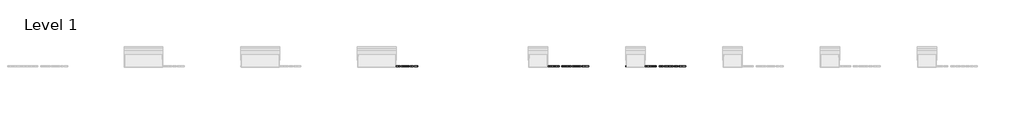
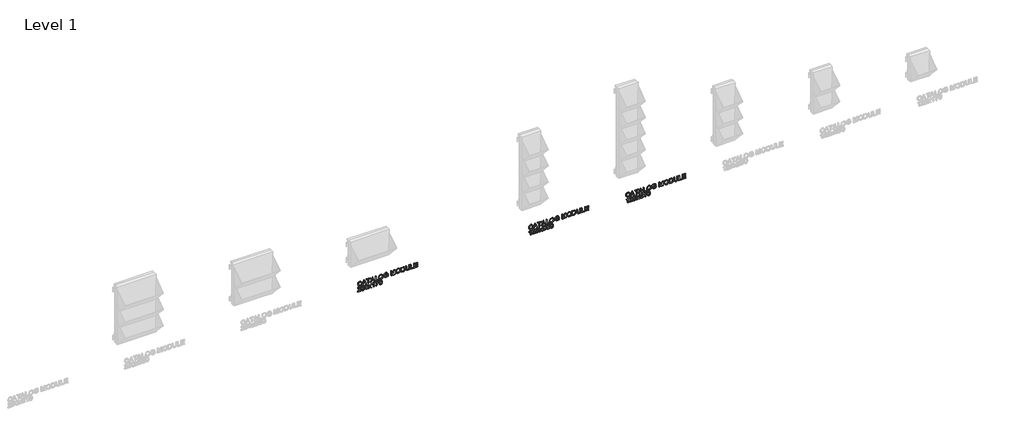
# One storey, part 4 of 5: 3 proxies.
"""IFC4 building model written with IfcOpenShell, lengths in millimetres."""

from ifc_helpers import new_model, si_unit, frame, origin, place, context, project, spatial, polyline, outline, extrude, element, save

model = new_model("IFC4")

# Units and contexts
model_context = context("Model", 3, world=origin())
ifc_project = project(units=[si_unit("LENGTHUNIT", "METRE", prefix="MILLI")], contexts=[model_context])

# Site, building, storey
site = spatial("IfcSite", under=ifc_project)
building = spatial("IfcBuilding", under=site)
storey = spatial("IfcBuildingStorey", under=building, Name="Level 1", Elevation=0.0)

# Proxies
placement = place(None, origin())
element("IfcBuildingElementProxy", 1, Name="30mm Arial", ObjectType="30mm Arial", at=placement, inside=storey, context=model_context, shape_type="SweptSolid", body=[
    extrude(outline(polyline([(-74.1059821, 2262.4481328), (-79.6536426, 2259.2512383), (-81.5224832, 2253.4865274), (-80.1502833, 2248.2883548), (-76.0042532, 2244.7493301), (-69.5148148, 2243.6125747), (-63.9156509, 2244.5727467), (-59.5893586, 2247.9020787), (-57.9780355, 2253.7955483), (-59.4311694, 2258.8870351), (-64.0628037, 2261.9772439), (-63.1651716, 2265.7443555), (-56.558011, 2261.4879608), (-54.2109238, 2253.9427011), (-56.0245821, 2246.7027834), (-61.3331193, 2241.6296907), (-69.5221725, 2239.8454631), (-77.5787882, 2241.4236768), (-83.3103897, 2246.0222018), (-85.2895948, 2253.8617671), (-82.6739538, 2261.749157), (-75.0771906, 2266.2152445), (-74.1059821, 2262.4481328)])), frame((0.0, -152.7156773, 0.0), z_axis=(0.0, 1.0, 0.0), x_axis=(0.0, 0.0, 1.0)), (0.0, 0.0, 1.0), 5.0),
    extrude(outline(polyline([(-84.8187058, 2267.8854287), (-84.8187058, 2271.8659119), (-75.4009268, 2275.3092874), (-75.4009268, 2287.7216259), (-84.8187058, 2291.172359), (-84.8187058, 2295.1528422), (-54.6818128, 2283.123101), (-54.6818128, 2279.91517), (-84.8187058, 2267.8854287)]), holes=[polyline([(-71.6338151, 2276.6925237), (-63.5771994, 2279.6429373), (-58.4489244, 2281.5191355), (-64.2246718, 2283.6307781), (-71.6338151, 2286.3457472), (-71.6338151, 2276.6925237)])]), frame((0.0, -152.7156773, 0.0), z_axis=(0.0, 1.0, 0.0), x_axis=(0.0, 0.0, 1.0)), (0.0, 0.0, 1.0), 5.0),
    extrude(outline(polyline([(-84.8187058, 2306.7116945), (-84.8187058, 2310.4788061), (-58.4489244, 2310.4788061), (-58.4489244, 2320.3674742), (-54.6818128, 2320.3674742), (-54.6818128, 2296.8230265), (-58.4489244, 2296.8230265), (-58.4489244, 2306.7116945), (-84.8187058, 2306.7116945)])), frame((0.0, -152.7156773, 0.0), z_axis=(0.0, 1.0, 0.0), x_axis=(0.0, 0.0, 1.0)), (0.0, 0.0, 1.0), 5.0),
    extrude(outline(polyline([(-84.8187058, 2321.0958805), (-84.8187058, 2325.0763637), (-75.4009268, 2328.5197392), (-75.4009268, 2340.9320777), (-84.8187058, 2344.3828108), (-84.8187058, 2348.363294), (-54.6818128, 2336.3335527), (-54.6818128, 2333.1256218), (-84.8187058, 2321.0958805)]), holes=[polyline([(-71.6338151, 2329.9029755), (-63.5771994, 2332.8533891), (-58.4489244, 2334.7295873), (-64.2246718, 2336.8412299), (-71.6338151, 2339.556199), (-71.6338151, 2329.9029755)])]), frame((0.0, -152.7156773, 0.0), z_axis=(0.0, 1.0, 0.0), x_axis=(0.0, 0.0, 1.0)), (0.0, 0.0, 1.0), 5.0),
    extrude(outline(polyline([(-84.8187058, 2352.387923), (-84.8187058, 2371.2234812), (-81.0515942, 2371.2234812), (-81.0515942, 2356.1550346), (-54.6818128, 2356.1550346), (-54.6818128, 2352.387923), (-84.8187058, 2352.387923)])), frame((0.0, -152.7156773, 0.0), z_axis=(0.0, 1.0, 0.0), x_axis=(0.0, 0.0, 1.0)), (0.0, 0.0, 1.0), 5.0),
    extrude(outline(polyline([(-70.1475719, 2374.0488149), (-77.6486858, 2375.7705026), (-83.2404921, 2380.8325589), (-85.2895948, 2388.410928), (-83.4354695, 2395.706028), (-77.9761007, 2400.9299523), (-69.8017628, 2402.7730411), (-61.7377895, 2401.0219228), (-56.1974866, 2395.930436), (-54.2109238, 2388.4330009), (-58.4415668, 2378.0660863), (-70.1475719, 2374.0488149)]), holes=[polyline([(-70.1843601, 2377.8159265), (-60.7923327, 2380.9576388), (-57.9780355, 2388.4550738), (-59.438527, 2393.9843402), (-63.5551265, 2397.7257001), (-69.7723322, 2399.0059294), (-78.461705, 2396.0150488), (-81.5224832, 2388.3888551), (-78.4911355, 2380.8288801), (-70.1843601, 2377.8159265)])]), frame((0.0, -152.7156773, 0.0), z_axis=(0.0, 1.0, 0.0), x_axis=(0.0, 0.0, 1.0)), (0.0, 0.0, 1.0), 5.0),
    extrude(outline(polyline([(-73.046482, 2422.0794882), (-73.046482, 2430.5554894), (-78.4911355, 2430.5554894), (-80.5549535, 2426.7405531), (-81.5224832, 2421.5865263), (-80.238575, 2415.8438884), (-76.3095953, 2411.72361), (-69.7429017, 2410.3072643), (-63.8273592, 2411.4844867), (-60.9247703, 2413.4232248), (-58.7910547, 2416.7047322), (-57.9780355, 2421.5276652), (-58.7321936, 2425.761987), (-60.7408293, 2428.6976853), (-64.2246718, 2430.4156942), (-63.2461056, 2433.8885002), (-58.2613046, 2431.6113107), (-55.2814605, 2427.4799959), (-54.2109238, 2421.5865263), (-56.0576915, 2413.6549905), (-61.7046801, 2408.3758839), (-69.8974121, 2406.5401527), (-77.909882, 2408.3832415), (-83.3950025, 2413.8426103), (-85.2895948, 2421.8881895), (-84.0976571, 2428.2782998), (-80.5439171, 2434.322601), (-69.2793704, 2434.322601), (-69.2793704, 2422.0794882), (-73.046482, 2422.0794882)])), frame((0.0, -152.7156773, 0.0), z_axis=(0.0, 1.0, 0.0), x_axis=(0.0, 0.0, 1.0)), (0.0, 0.0, 1.0), 5.0),
    extrude(outline(polyline([(-84.8187058, 2452.2163812), (-84.8187058, 2455.9834929), (-58.4489244, 2455.9834929), (-84.8187058, 2463.5545043), (-84.8187058, 2468.6607064), (-58.4489244, 2476.2317179), (-84.8187058, 2476.2317179), (-84.8187058, 2479.9988295), (-54.6818128, 2479.9988295), (-54.6818128, 2473.5167488), (-75.5554372, 2467.4540535), (-80.3599761, 2466.1076054), (-75.9233192, 2464.8641642), (-54.6818128, 2458.698462), (-54.6818128, 2452.2163812), (-84.8187058, 2452.2163812)])), frame((0.0, -152.7156773, 0.0), z_axis=(0.0, 1.0, 0.0), x_axis=(0.0, 0.0, 1.0)), (0.0, 0.0, 1.0), 5.0),
    extrude(outline(polyline([(-70.1475719, 2485.178608), (-77.6486858, 2486.9002957), (-83.2404921, 2491.962352), (-85.2895948, 2499.5407211), (-83.4354695, 2506.8358211), (-77.9761007, 2512.0597454), (-69.8017628, 2513.9028342), (-61.7377895, 2512.1517159), (-56.1974866, 2507.0602291), (-54.2109238, 2499.562794), (-58.4415668, 2489.1958794), (-70.1475719, 2485.178608)]), holes=[polyline([(-70.1843601, 2488.9457196), (-60.7923327, 2492.0874319), (-57.9780355, 2499.5848669), (-59.438527, 2505.1141333), (-63.5551265, 2508.8554932), (-69.7723322, 2510.1357226), (-78.461705, 2507.1448419), (-81.5224832, 2499.5186482), (-78.4911355, 2491.9586732), (-70.1843601, 2488.9457196)])]), frame((0.0, -152.7156773, 0.0), z_axis=(0.0, 1.0, 0.0), x_axis=(0.0, 0.0, 1.0)), (0.0, 0.0, 1.0), 5.0),
    extrude(outline(polyline([(-84.8187058, 2519.0826127), (-84.8187058, 2529.9792774), (-84.3036711, 2534.8242832), (-82.7916761, 2538.425848), (-80.0583128, 2541.1776053), (-75.6694806, 2543.2377445), (-69.5883912, 2544.0397272), (-62.42205, 2542.8551472), (-57.271702, 2539.2866918), (-55.1159136, 2534.8573926), (-54.6818128, 2529.4789579), (-54.6818128, 2519.0826127), (-84.8187058, 2519.0826127)]), holes=[polyline([(-81.0515942, 2522.8497243), (-58.4489244, 2522.8497243), (-58.4489244, 2529.4127391), (-59.0522509, 2534.7543857), (-62.3926194, 2538.6649713), (-69.5295301, 2540.2726156), (-75.2280222, 2539.4522387), (-78.9693821, 2537.1603339), (-80.5071289, 2534.3644308), (-81.0515942, 2529.5157461), (-81.0515942, 2522.8497243)])]), frame((0.0, -152.7156773, 0.0), z_axis=(0.0, 1.0, 0.0), x_axis=(0.0, 0.0, 1.0)), (0.0, 0.0, 1.0), 5.0),
    extrude(outline(polyline([(-54.6818128, 2568.9968418), (-71.9354784, 2568.9968418), (-79.543278, 2567.091213), (-81.5224832, 2560.7121392), (-80.5218441, 2556.28284), (-77.6781163, 2553.729739), (-71.9354784, 2552.9866173), (-54.6818128, 2552.9866173), (-54.6818128, 2549.2195057), (-72.0679159, 2549.2195057), (-79.6131756, 2550.3636187), (-83.8327821, 2554.1822338), (-85.2895948, 2561.065306), (-83.6157317, 2568.0550639), (-79.2747242, 2571.7412415), (-72.0679159, 2572.7639534), (-54.6818128, 2572.7639534), (-54.6818128, 2568.9968418)])), frame((0.0, -152.7156773, 0.0), z_axis=(0.0, 1.0, 0.0), x_axis=(0.0, 0.0, 1.0)), (0.0, 0.0, 1.0), 5.0),
    extrude(outline(polyline([(-84.8187058, 2579.3563988), (-84.8187058, 2598.1919569), (-81.0515942, 2598.1919569), (-81.0515942, 2583.1235104), (-54.6818128, 2583.1235104), (-54.6818128, 2579.3563988), (-84.8187058, 2579.3563988)])), frame((0.0, -152.7156773, 0.0), z_axis=(0.0, 1.0, 0.0), x_axis=(0.0, 0.0, 1.0)), (0.0, 0.0, 1.0), 5.0),
    extrude(outline(polyline([(-84.8187058, 2602.4299575), (-84.8187058, 2624.5617383), (-81.0515942, 2624.5617383), (-81.0515942, 2606.1970691), (-71.1629262, 2606.1970691), (-71.1629262, 2623.1490715), (-67.3958146, 2623.1490715), (-67.3958146, 2606.1970691), (-58.4489244, 2606.1970691), (-58.4489244, 2624.0908494), (-54.6818128, 2624.0908494), (-54.6818128, 2602.4299575), (-84.8187058, 2602.4299575)])), frame((0.0, -152.7156773, 0.0), z_axis=(0.0, 1.0, 0.0), x_axis=(0.0, 0.0, 1.0)), (0.0, 0.0, 1.0), 5.0),
    extrude(outline(polyline([(-117.6440396, 2259.1519102), (-117.6440396, 2244.3556963), (-115.7273744, 2246.0553111), (-112.1037367, 2250.388961), (-106.9423523, 2255.7857899), (-103.2488171, 2258.011476), (-99.6766829, 2258.6810212), (-93.687564, 2256.1978177), (-91.2742582, 2249.4545408), (-93.4447619, 2242.7333367), (-99.7502593, 2239.8454631), (-100.2211483, 2243.6125747), (-96.4172484, 2245.1981461), (-95.0413698, 2249.3736067), (-96.4503578, 2253.3798417), (-99.9047698, 2254.9139096), (-104.1722009, 2253.2878712), (-110.4482677, 2246.7837175), (-114.815027, 2242.0674703), (-118.8139043, 2239.7792443), (-121.4111512, 2239.3745741), (-121.4111512, 2259.1519102), (-117.6440396, 2259.1519102)])), frame((0.0, -152.7156773, 0.0), z_axis=(0.0, 1.0, 0.0), x_axis=(0.0, 0.0, 1.0)), (0.0, 0.0, 1.0), 5.0),
    extrude(outline(polyline([(-113.406039, 2262.9190218), (-119.5607048, 2265.8583989), (-121.8820402, 2272.5060266), (-118.269439, 2280.3345554), (-111.2796811, 2282.6963579), (-104.334069, 2280.0733592), (-101.6338151, 2273.6317455), (-103.8116766, 2268.1208732), (-95.5122587, 2269.7321963), (-95.5122587, 2281.283691), (-91.7451471, 2281.283691), (-91.7451471, 2266.6861334), (-107.2844826, 2263.3899107), (-107.7553715, 2267.1570224), (-106.0557567, 2269.2723438), (-105.4009268, 2272.579603), (-107.0416805, 2277.3510325), (-111.5151255, 2278.9292462), (-116.3086279, 2277.2443467), (-118.1149285, 2272.5207419), (-116.8163051, 2268.5844045), (-112.93515, 2266.6861334), (-113.406039, 2262.9190218)])), frame((0.0, -152.7156773, 0.0), z_axis=(0.0, 1.0, 0.0), x_axis=(0.0, 0.0, 1.0)), (0.0, 0.0, 1.0), 5.0),
    extrude(outline(polyline([(-106.5855068, 2285.9925805), (-119.0125606, 2288.9944976), (-121.8820402, 2295.8812486), (-120.23025, 2301.3957997), (-115.2196972, 2304.6736282), (-106.5855068, 2305.7699166), (-99.5037784, 2305.0856561), (-95.0450486, 2303.3198225), (-92.2454666, 2300.2811172), (-91.2742582, 2295.8812486), (-92.9150119, 2290.3887704), (-97.9145282, 2287.0999053), (-106.5855068, 2285.9925805)]), holes=[polyline([(-106.5781492, 2289.7596922), (-97.0573631, 2291.5843869), (-95.0413698, 2295.8371027), (-97.3295958, 2300.2958325), (-106.5781492, 2302.002805), (-115.9260307, 2300.2369714), (-118.1149285, 2295.8812486), (-115.9333883, 2291.5255257), (-106.5781492, 2289.7596922)])]), frame((0.0, -152.7156773, 0.0), z_axis=(0.0, 1.0, 0.0), x_axis=(0.0, 0.0, 1.0)), (0.0, 0.0, 1.0), 5.0),
    extrude(outline(polyline([(-121.4111512, 2307.6534724), (-121.4111512, 2312.1857786), (-114.7230565, 2318.756151), (-121.4111512, 2323.3693912), (-121.4111512, 2327.9016974), (-110.2863997, 2320.2350366), (-99.2793704, 2328.196003), (-99.2793704, 2323.6636968), (-105.0330448, 2319.4992727), (-107.0784687, 2318.020387), (-104.5768711, 2316.3134146), (-99.2793704, 2312.6566675), (-99.2793704, 2308.1243614), (-110.2863997, 2315.7027305), (-121.4111512, 2307.6534724)])), frame((0.0, -152.7156773, 0.0), z_axis=(0.0, 1.0, 0.0), x_axis=(0.0, 0.0, 1.0)), (0.0, 0.0, 1.0), 5.0),
    extrude(outline(polyline([(-121.4111512, 2344.3828108), (-91.2742582, 2344.3828108), (-91.2742582, 2341.9547896), (-95.2841719, 2338.6033847), (-98.8084814, 2333.0814759), (-102.3695791, 2333.0814759), (-100.4676292, 2337.0472438), (-97.9255646, 2340.6156992), (-121.4111512, 2340.6156992), (-121.4111512, 2344.3828108)])), frame((0.0, -152.7156773, 0.0), z_axis=(0.0, 1.0, 0.0), x_axis=(0.0, 0.0, 1.0)), (0.0, 0.0, 1.0), 5.0),
    extrude(outline(polyline([(-95.5122587, 2353.3297009), (-95.5122587, 2369.3399254), (-103.3076782, 2363.6451121), (-112.9130771, 2359.5358702), (-121.4111512, 2358.0385905), (-121.4111512, 2361.8057021), (-113.222098, 2363.2036537), (-102.8956504, 2367.4968366), (-94.79121, 2373.107037), (-91.7451471, 2373.107037), (-91.7451471, 2353.3297009), (-95.5122587, 2353.3297009)])), frame((0.0, -152.7156773, 0.0), z_axis=(0.0, 1.0, 0.0), x_axis=(0.0, 0.0, 1.0)), (0.0, 0.0, 1.0), 5.0),
    extrude(outline(polyline([(-106.5855068, 2376.4032597), (-119.0125606, 2379.4051767), (-121.8820402, 2386.2919277), (-120.23025, 2391.8064788), (-115.2196972, 2395.0843074), (-106.5855068, 2396.1805957), (-99.5037784, 2395.4963352), (-95.0450486, 2393.7305016), (-92.2454666, 2390.6917964), (-91.2742582, 2386.2919277), (-92.9150119, 2380.7994495), (-97.9145282, 2377.5105845), (-106.5855068, 2376.4032597)]), holes=[polyline([(-106.5781492, 2380.1703713), (-97.0573631, 2381.995066), (-95.0413698, 2386.2477819), (-97.3295958, 2390.7065116), (-106.5781492, 2392.4134841), (-115.9260307, 2390.6476505), (-118.1149285, 2386.2919277), (-115.9333883, 2381.9362049), (-106.5781492, 2380.1703713)])]), frame((0.0, -152.7156773, 0.0), z_axis=(0.0, 1.0, 0.0), x_axis=(0.0, 0.0, 1.0)), (0.0, 0.0, 1.0), 5.0),
])
element("IfcBuildingElementProxy", 2, Name="30mm Arial", ObjectType="30mm Arial", at=placement, inside=storey, context=model_context, shape_type="SweptSolid", body=[
    extrude(outline(polyline([(-74.1059821, 3362.4481323), (-79.6536426, 3359.2512378), (-81.5224832, 3353.4865269), (-80.1502833, 3348.2883543), (-76.0042532, 3344.7493295), (-69.5148148, 3343.6125742), (-63.9156509, 3344.5727462), (-59.5893586, 3347.9020782), (-57.9780355, 3353.7955478), (-59.4311694, 3358.8870346), (-64.0628037, 3361.9772434), (-63.1651716, 3365.744355), (-56.558011, 3361.4879603), (-54.2109238, 3353.9427006), (-56.0245821, 3346.7027829), (-61.3331193, 3341.6296902), (-69.5221725, 3339.8454625), (-77.5787882, 3341.4236763), (-83.3103897, 3346.0222012), (-85.2895948, 3353.8617665), (-82.6739538, 3361.7491565), (-75.0771906, 3366.2152439), (-74.1059821, 3362.4481323)])), frame((0.0, -152.7156773, 0.0), z_axis=(0.0, 1.0, 0.0), x_axis=(0.0, 0.0, 1.0)), (0.0, 0.0, 1.0), 5.0),
    extrude(outline(polyline([(-84.8187058, 3367.8854282), (-84.8187058, 3371.8659114), (-75.4009268, 3375.3092869), (-75.4009268, 3387.7216254), (-84.8187058, 3391.1723585), (-84.8187058, 3395.1528417), (-54.6818128, 3383.1231004), (-54.6818128, 3379.9151694), (-84.8187058, 3367.8854282)]), holes=[polyline([(-71.6338151, 3376.6925232), (-63.5771994, 3379.6429368), (-58.4489244, 3381.5191349), (-64.2246718, 3383.6307776), (-71.6338151, 3386.3457467), (-71.6338151, 3376.6925232)])]), frame((0.0, -152.7156773, 0.0), z_axis=(0.0, 1.0, 0.0), x_axis=(0.0, 0.0, 1.0)), (0.0, 0.0, 1.0), 5.0),
    extrude(outline(polyline([(-84.8187058, 3406.711694), (-84.8187058, 3410.4788056), (-58.4489244, 3410.4788056), (-58.4489244, 3420.3674736), (-54.6818128, 3420.3674736), (-54.6818128, 3396.8230259), (-58.4489244, 3396.8230259), (-58.4489244, 3406.711694), (-84.8187058, 3406.711694)])), frame((0.0, -152.7156773, 0.0), z_axis=(0.0, 1.0, 0.0), x_axis=(0.0, 0.0, 1.0)), (0.0, 0.0, 1.0), 5.0),
    extrude(outline(polyline([(-84.8187058, 3421.09588), (-84.8187058, 3425.0763632), (-75.4009268, 3428.5197386), (-75.4009268, 3440.9320772), (-84.8187058, 3444.3828103), (-84.8187058, 3448.3632935), (-54.6818128, 3436.3335522), (-54.6818128, 3433.1256212), (-84.8187058, 3421.09588)]), holes=[polyline([(-71.6338151, 3429.9029749), (-63.5771994, 3432.8533885), (-58.4489244, 3434.7295867), (-64.2246718, 3436.8412294), (-71.6338151, 3439.5561985), (-71.6338151, 3429.9029749)])]), frame((0.0, -152.7156773, 0.0), z_axis=(0.0, 1.0, 0.0), x_axis=(0.0, 0.0, 1.0)), (0.0, 0.0, 1.0), 5.0),
    extrude(outline(polyline([(-84.8187058, 3452.3879225), (-84.8187058, 3471.2234806), (-81.0515942, 3471.2234806), (-81.0515942, 3456.1550341), (-54.6818128, 3456.1550341), (-54.6818128, 3452.3879225), (-84.8187058, 3452.3879225)])), frame((0.0, -152.7156773, 0.0), z_axis=(0.0, 1.0, 0.0), x_axis=(0.0, 0.0, 1.0)), (0.0, 0.0, 1.0), 5.0),
    extrude(outline(polyline([(-70.1475719, 3474.0488144), (-77.6486858, 3475.7705021), (-83.2404921, 3480.8325584), (-85.2895948, 3488.4109275), (-83.4354695, 3495.7060274), (-77.9761007, 3500.9299517), (-69.8017628, 3502.7730405), (-61.7377895, 3501.0219222), (-56.1974866, 3495.9304354), (-54.2109238, 3488.4330004), (-58.4415668, 3478.0660857), (-70.1475719, 3474.0488144)]), holes=[polyline([(-70.1843601, 3477.815926), (-60.7923327, 3480.9576382), (-57.9780355, 3488.4550733), (-59.438527, 3493.9843397), (-63.5551265, 3497.7256996), (-69.7723322, 3499.0059289), (-78.461705, 3496.0150483), (-81.5224832, 3488.3888545), (-78.4911355, 3480.8288795), (-70.1843601, 3477.815926)])]), frame((0.0, -152.7156773, 0.0), z_axis=(0.0, 1.0, 0.0), x_axis=(0.0, 0.0, 1.0)), (0.0, 0.0, 1.0), 5.0),
    extrude(outline(polyline([(-73.046482, 3522.0794877), (-73.046482, 3530.5554888), (-78.4911355, 3530.5554888), (-80.5549535, 3526.7405525), (-81.5224832, 3521.5865258), (-80.238575, 3515.8438878), (-76.3095953, 3511.7236095), (-69.7429017, 3510.3072638), (-63.8273592, 3511.4844862), (-60.9247703, 3513.4232243), (-58.7910547, 3516.7047317), (-57.9780355, 3521.5276647), (-58.7321936, 3525.7619864), (-60.7408293, 3528.6976847), (-64.2246718, 3530.4156937), (-63.2461056, 3533.8884997), (-58.2613046, 3531.6113101), (-55.2814605, 3527.4799953), (-54.2109238, 3521.5865258), (-56.0576915, 3513.65499), (-61.7046801, 3508.3758833), (-69.8974121, 3506.5401522), (-77.909882, 3508.383241), (-83.3950025, 3513.8426098), (-85.2895948, 3521.888189), (-84.0976571, 3528.2782993), (-80.5439171, 3534.3226005), (-69.2793704, 3534.3226005), (-69.2793704, 3522.0794877), (-73.046482, 3522.0794877)])), frame((0.0, -152.7156773, 0.0), z_axis=(0.0, 1.0, 0.0), x_axis=(0.0, 0.0, 1.0)), (0.0, 0.0, 1.0), 5.0),
    extrude(outline(polyline([(-84.8187058, 3552.2163807), (-84.8187058, 3555.9834923), (-58.4489244, 3555.9834923), (-84.8187058, 3563.5545038), (-84.8187058, 3568.6607059), (-58.4489244, 3576.2317173), (-84.8187058, 3576.2317173), (-84.8187058, 3579.998829), (-54.6818128, 3579.998829), (-54.6818128, 3573.5167482), (-75.5554372, 3567.4540529), (-80.3599761, 3566.1076048), (-75.9233192, 3564.8641637), (-54.6818128, 3558.6984615), (-54.6818128, 3552.2163807), (-84.8187058, 3552.2163807)])), frame((0.0, -152.7156773, 0.0), z_axis=(0.0, 1.0, 0.0), x_axis=(0.0, 0.0, 1.0)), (0.0, 0.0, 1.0), 5.0),
    extrude(outline(polyline([(-70.1475719, 3585.1786075), (-77.6486858, 3586.9002952), (-83.2404921, 3591.9623515), (-85.2895948, 3599.5407206), (-83.4354695, 3606.8358205), (-77.9761007, 3612.0597449), (-69.8017628, 3613.9028336), (-61.7377895, 3612.1517154), (-56.1974866, 3607.0602285), (-54.2109238, 3599.5627935), (-58.4415668, 3589.1958789), (-70.1475719, 3585.1786075)]), holes=[polyline([(-70.1843601, 3588.9457191), (-60.7923327, 3592.0874313), (-57.9780355, 3599.5848664), (-59.438527, 3605.1141328), (-63.5551265, 3608.8554927), (-69.7723322, 3610.135722), (-78.461705, 3607.1448414), (-81.5224832, 3599.5186476), (-78.4911355, 3591.9586726), (-70.1843601, 3588.9457191)])]), frame((0.0, -152.7156773, 0.0), z_axis=(0.0, 1.0, 0.0), x_axis=(0.0, 0.0, 1.0)), (0.0, 0.0, 1.0), 5.0),
    extrude(outline(polyline([(-84.8187058, 3619.0826121), (-84.8187058, 3629.9792768), (-84.3036711, 3634.8242827), (-82.7916761, 3638.4258474), (-80.0583128, 3641.1776048), (-75.6694806, 3643.2377439), (-69.5883912, 3644.0397267), (-62.42205, 3642.8551467), (-57.271702, 3639.2866913), (-55.1159136, 3634.8573921), (-54.6818128, 3629.4789573), (-54.6818128, 3619.0826121), (-84.8187058, 3619.0826121)]), holes=[polyline([(-81.0515942, 3622.8497238), (-58.4489244, 3622.8497238), (-58.4489244, 3629.4127386), (-59.0522509, 3634.7543851), (-62.3926194, 3638.6649707), (-69.5295301, 3640.2726151), (-75.2280222, 3639.4522382), (-78.9693821, 3637.1603334), (-80.5071289, 3634.3644302), (-81.0515942, 3629.5157455), (-81.0515942, 3622.8497238)])]), frame((0.0, -152.7156773, 0.0), z_axis=(0.0, 1.0, 0.0), x_axis=(0.0, 0.0, 1.0)), (0.0, 0.0, 1.0), 5.0),
    extrude(outline(polyline([(-54.6818128, 3668.9968412), (-71.9354784, 3668.9968412), (-79.543278, 3667.0912125), (-81.5224832, 3660.7121387), (-80.5218441, 3656.2828395), (-77.6781163, 3653.7297384), (-71.9354784, 3652.9866168), (-54.6818128, 3652.9866168), (-54.6818128, 3649.2195052), (-72.0679159, 3649.2195052), (-79.6131756, 3650.3636182), (-83.8327821, 3654.1822333), (-85.2895948, 3661.0653054), (-83.6157317, 3668.0550633), (-79.2747242, 3671.7412409), (-72.0679159, 3672.7639529), (-54.6818128, 3672.7639529), (-54.6818128, 3668.9968412)])), frame((0.0, -152.7156773, 0.0), z_axis=(0.0, 1.0, 0.0), x_axis=(0.0, 0.0, 1.0)), (0.0, 0.0, 1.0), 5.0),
    extrude(outline(polyline([(-84.8187058, 3679.3563982), (-84.8187058, 3698.1919564), (-81.0515942, 3698.1919564), (-81.0515942, 3683.1235099), (-54.6818128, 3683.1235099), (-54.6818128, 3679.3563982), (-84.8187058, 3679.3563982)])), frame((0.0, -152.7156773, 0.0), z_axis=(0.0, 1.0, 0.0), x_axis=(0.0, 0.0, 1.0)), (0.0, 0.0, 1.0), 5.0),
    extrude(outline(polyline([(-84.8187058, 3702.429957), (-84.8187058, 3724.5617378), (-81.0515942, 3724.5617378), (-81.0515942, 3706.1970686), (-71.1629262, 3706.1970686), (-71.1629262, 3723.1490709), (-67.3958146, 3723.1490709), (-67.3958146, 3706.1970686), (-58.4489244, 3706.1970686), (-58.4489244, 3724.0908488), (-54.6818128, 3724.0908488), (-54.6818128, 3702.429957), (-84.8187058, 3702.429957)])), frame((0.0, -152.7156773, 0.0), z_axis=(0.0, 1.0, 0.0), x_axis=(0.0, 0.0, 1.0)), (0.0, 0.0, 1.0), 5.0),
    extrude(outline(polyline([(-121.4111512, 3353.9721311), (-91.2742582, 3353.9721311), (-91.2742582, 3351.54411), (-95.2841719, 3348.192705), (-98.8084814, 3342.6707962), (-102.3695791, 3342.6707962), (-100.4676292, 3346.6365642), (-97.9255646, 3350.2050195), (-121.4111512, 3350.2050195), (-121.4111512, 3353.9721311)])), frame((0.0, -152.7156773, 0.0), z_axis=(0.0, 1.0, 0.0), x_axis=(0.0, 0.0, 1.0)), (0.0, 0.0, 1.0), 5.0),
    extrude(outline(polyline([(-117.6440396, 3382.2254684), (-117.6440396, 3367.4292545), (-115.7273744, 3369.1288693), (-112.1037367, 3373.4625192), (-106.9423523, 3378.8593481), (-103.2488171, 3381.0850342), (-99.6766829, 3381.7545794), (-93.687564, 3379.2713759), (-91.2742582, 3372.528099), (-93.4447619, 3365.8068949), (-99.7502593, 3362.9190213), (-100.2211483, 3366.6861329), (-96.4172484, 3368.2717043), (-95.0413698, 3372.4471649), (-96.4503578, 3376.4533999), (-99.9047698, 3377.9874678), (-104.1722009, 3376.3614294), (-110.4482677, 3369.8572757), (-114.815027, 3365.1410285), (-118.8139043, 3362.8528025), (-121.4111512, 3362.4481323), (-121.4111512, 3382.2254684), (-117.6440396, 3382.2254684)])), frame((0.0, -152.7156773, 0.0), z_axis=(0.0, 1.0, 0.0), x_axis=(0.0, 0.0, 1.0)), (0.0, 0.0, 1.0), 5.0),
    extrude(outline(polyline([(-113.406039, 3385.99258), (-119.5607048, 3388.9319571), (-121.8820402, 3395.5795848), (-118.269439, 3403.4081136), (-111.2796811, 3405.7699161), (-104.334069, 3403.1469174), (-101.6338151, 3396.7053037), (-103.8116766, 3391.1944314), (-95.5122587, 3392.8057545), (-95.5122587, 3404.3572492), (-91.7451471, 3404.3572492), (-91.7451471, 3389.7596916), (-107.2844826, 3386.4634689), (-107.7553715, 3390.2305806), (-106.0557567, 3392.3459021), (-105.4009268, 3395.6531612), (-107.0416805, 3400.4245907), (-111.5151255, 3402.0028044), (-116.3086279, 3400.3179049), (-118.1149285, 3395.5943001), (-116.8163051, 3391.6579627), (-112.93515, 3389.7596916), (-113.406039, 3385.99258)])), frame((0.0, -152.7156773, 0.0), z_axis=(0.0, 1.0, 0.0), x_axis=(0.0, 0.0, 1.0)), (0.0, 0.0, 1.0), 5.0),
    extrude(outline(polyline([(-121.4111512, 3407.6534719), (-121.4111512, 3412.1857781), (-114.7230565, 3418.7561505), (-121.4111512, 3423.3693907), (-121.4111512, 3427.9016969), (-110.2863997, 3420.2350361), (-99.2793704, 3428.1960025), (-99.2793704, 3423.6636963), (-105.0330448, 3419.4992721), (-107.0784687, 3418.0203865), (-104.5768711, 3416.313414), (-99.2793704, 3412.656667), (-99.2793704, 3408.1243608), (-110.2863997, 3415.7027299), (-121.4111512, 3407.6534719)])), frame((0.0, -152.7156773, 0.0), z_axis=(0.0, 1.0, 0.0), x_axis=(0.0, 0.0, 1.0)), (0.0, 0.0, 1.0), 5.0),
    extrude(outline(polyline([(-113.406039, 3430.2561417), (-119.5607048, 3433.1955188), (-121.8820402, 3439.8431465), (-118.269439, 3447.6716753), (-111.2796811, 3450.0334777), (-104.334069, 3447.4104791), (-101.6338151, 3440.9688654), (-103.8116766, 3435.4579931), (-95.5122587, 3437.0693162), (-95.5122587, 3448.6208109), (-91.7451471, 3448.6208109), (-91.7451471, 3434.0232533), (-107.2844826, 3430.7270306), (-107.7553715, 3434.4941422), (-106.0557567, 3436.6094637), (-105.4009268, 3439.9167228), (-107.0416805, 3444.6881523), (-111.5151255, 3446.2663661), (-116.3086279, 3444.5814665), (-118.1149285, 3439.8578617), (-116.8163051, 3435.9215244), (-112.93515, 3434.0232533), (-113.406039, 3430.2561417)])), frame((0.0, -152.7156773, 0.0), z_axis=(0.0, 1.0, 0.0), x_axis=(0.0, 0.0, 1.0)), (0.0, 0.0, 1.0), 5.0),
    extrude(outline(polyline([(-106.5855068, 3453.3297004), (-119.0125606, 3456.3316175), (-121.8820402, 3463.2183684), (-120.23025, 3468.7329195), (-115.2196972, 3472.0107481), (-106.5855068, 3473.1070365), (-99.5037784, 3472.4227759), (-95.0450486, 3470.6569424), (-92.2454666, 3467.6182371), (-91.2742582, 3463.2183684), (-92.9150119, 3457.7258902), (-97.9145282, 3454.4370252), (-106.5855068, 3453.3297004)]), holes=[polyline([(-106.5781492, 3457.096812), (-97.0573631, 3458.9215067), (-95.0413698, 3463.1742226), (-97.3295958, 3467.6329524), (-106.5781492, 3469.3399248), (-115.9260307, 3467.5740912), (-118.1149285, 3463.2183684), (-115.9333883, 3458.8626456), (-106.5781492, 3457.096812)])]), frame((0.0, -152.7156773, 0.0), z_axis=(0.0, 1.0, 0.0), x_axis=(0.0, 0.0, 1.0)), (0.0, 0.0, 1.0), 5.0),
    extrude(outline(polyline([(-106.5855068, 3476.4032591), (-119.0125606, 3479.4051762), (-121.8820402, 3486.2919272), (-120.23025, 3491.8064783), (-115.2196972, 3495.0843068), (-106.5855068, 3496.1805952), (-99.5037784, 3495.4963347), (-95.0450486, 3493.7305011), (-92.2454666, 3490.6917958), (-91.2742582, 3486.2919272), (-92.9150119, 3480.799449), (-97.9145282, 3477.5105839), (-106.5855068, 3476.4032591)]), holes=[polyline([(-106.5781492, 3480.1703708), (-97.0573631, 3481.9950655), (-95.0413698, 3486.2477813), (-97.3295958, 3490.7065111), (-106.5781492, 3492.4134836), (-115.9260307, 3490.64765), (-118.1149285, 3486.2919272), (-115.9333883, 3481.9362043), (-106.5781492, 3480.1703708)])]), frame((0.0, -152.7156773, 0.0), z_axis=(0.0, 1.0, 0.0), x_axis=(0.0, 0.0, 1.0)), (0.0, 0.0, 1.0), 5.0),
])
element("IfcBuildingElementProxy", 3, Name="30mm Arial", ObjectType="30mm Arial", at=placement, inside=storey, context=model_context, shape_type="SweptSolid", body=[
    extrude(outline(polyline([(-74.1059821, 3987.4481323), (-79.6536426, 3984.2512378), (-81.5224832, 3978.4865269), (-80.1502833, 3973.2883543), (-76.0042532, 3969.7493296), (-69.5148148, 3968.6125742), (-63.9156509, 3969.5727462), (-59.5893586, 3972.9020783), (-57.9780355, 3978.7955478), (-59.4311694, 3983.8870346), (-64.0628037, 3986.9772434), (-63.1651716, 3990.744355), (-56.558011, 3986.4879603), (-54.2109238, 3978.9427006), (-56.0245821, 3971.7027829), (-61.3331193, 3966.6296902), (-69.5221725, 3964.8454626), (-77.5787882, 3966.4236763), (-83.3103897, 3971.0222013), (-85.2895948, 3978.8617666), (-82.6739538, 3986.7491566), (-75.0771906, 3991.215244), (-74.1059821, 3987.4481323)])), frame((0.0, -152.7156773, 0.0), z_axis=(0.0, 1.0, 0.0), x_axis=(0.0, 0.0, 1.0)), (0.0, 0.0, 1.0), 5.0),
    extrude(outline(polyline([(-84.8187058, 3992.8854282), (-84.8187058, 3996.8659114), (-75.4009268, 4000.3092869), (-75.4009268, 4012.7216254), (-84.8187058, 4016.1723585), (-84.8187058, 4020.1528417), (-54.6818128, 4008.1231005), (-54.6818128, 4004.9151695), (-84.8187058, 3992.8854282)]), holes=[polyline([(-71.6338151, 4001.6925232), (-63.5771994, 4004.6429368), (-58.4489244, 4006.519135), (-64.2246718, 4008.6307776), (-71.6338151, 4011.3457467), (-71.6338151, 4001.6925232)])]), frame((0.0, -152.7156773, 0.0), z_axis=(0.0, 1.0, 0.0), x_axis=(0.0, 0.0, 1.0)), (0.0, 0.0, 1.0), 5.0),
    extrude(outline(polyline([(-84.8187058, 4031.711694), (-84.8187058, 4035.4788056), (-58.4489244, 4035.4788056), (-58.4489244, 4045.3674737), (-54.6818128, 4045.3674737), (-54.6818128, 4021.823026), (-58.4489244, 4021.823026), (-58.4489244, 4031.711694), (-84.8187058, 4031.711694)])), frame((0.0, -152.7156773, 0.0), z_axis=(0.0, 1.0, 0.0), x_axis=(0.0, 0.0, 1.0)), (0.0, 0.0, 1.0), 5.0),
    extrude(outline(polyline([(-84.8187058, 4046.09588), (-84.8187058, 4050.0763632), (-75.4009268, 4053.5197387), (-75.4009268, 4065.9320772), (-84.8187058, 4069.3828103), (-84.8187058, 4073.3632935), (-54.6818128, 4061.3335523), (-54.6818128, 4058.1256213), (-84.8187058, 4046.09588)]), holes=[polyline([(-71.6338151, 4054.902975), (-63.5771994, 4057.8533886), (-58.4489244, 4059.7295868), (-64.2246718, 4061.8412294), (-71.6338151, 4064.5561985), (-71.6338151, 4054.902975)])]), frame((0.0, -152.7156773, 0.0), z_axis=(0.0, 1.0, 0.0), x_axis=(0.0, 0.0, 1.0)), (0.0, 0.0, 1.0), 5.0),
    extrude(outline(polyline([(-84.8187058, 4077.3879225), (-84.8187058, 4096.2234807), (-81.0515942, 4096.2234807), (-81.0515942, 4081.1550342), (-54.6818128, 4081.1550342), (-54.6818128, 4077.3879225), (-84.8187058, 4077.3879225)])), frame((0.0, -152.7156773, 0.0), z_axis=(0.0, 1.0, 0.0), x_axis=(0.0, 0.0, 1.0)), (0.0, 0.0, 1.0), 5.0),
    extrude(outline(polyline([(-70.1475719, 4099.0488144), (-77.6486858, 4100.7705021), (-83.2404921, 4105.8325584), (-85.2895948, 4113.4109275), (-83.4354695, 4120.7060275), (-77.9761007, 4125.9299518), (-69.8017628, 4127.7730406), (-61.7377895, 4126.0219223), (-56.1974866, 4120.9304355), (-54.2109238, 4113.4330004), (-58.4415668, 4103.0660858), (-70.1475719, 4099.0488144)]), holes=[polyline([(-70.1843601, 4102.815926), (-60.7923327, 4105.9576383), (-57.9780355, 4113.4550733), (-59.438527, 4118.9843397), (-63.5551265, 4122.7256996), (-69.7723322, 4124.005929), (-78.461705, 4121.0150483), (-81.5224832, 4113.3888546), (-78.4911355, 4105.8288796), (-70.1843601, 4102.815926)])]), frame((0.0, -152.7156773, 0.0), z_axis=(0.0, 1.0, 0.0), x_axis=(0.0, 0.0, 1.0)), (0.0, 0.0, 1.0), 5.0),
    extrude(outline(polyline([(-73.046482, 4147.0794877), (-73.046482, 4155.5554889), (-78.4911355, 4155.5554889), (-80.5549535, 4151.7405526), (-81.5224832, 4146.5865258), (-80.238575, 4140.8438879), (-76.3095953, 4136.7236095), (-69.7429017, 4135.3072638), (-63.8273592, 4136.4844862), (-60.9247703, 4138.4232243), (-58.7910547, 4141.7047317), (-57.9780355, 4146.5276647), (-58.7321936, 4150.7619865), (-60.7408293, 4153.6976848), (-64.2246718, 4155.4156937), (-63.2461056, 4158.8884997), (-58.2613046, 4156.6113102), (-55.2814605, 4152.4799954), (-54.2109238, 4146.5865258), (-56.0576915, 4138.65499), (-61.7046801, 4133.3758834), (-69.8974121, 4131.5401522), (-77.909882, 4133.383241), (-83.3950025, 4138.8426098), (-85.2895948, 4146.8881891), (-84.0976571, 4153.2782993), (-80.5439171, 4159.3226005), (-69.2793704, 4159.3226005), (-69.2793704, 4147.0794877), (-73.046482, 4147.0794877)])), frame((0.0, -152.7156773, 0.0), z_axis=(0.0, 1.0, 0.0), x_axis=(0.0, 0.0, 1.0)), (0.0, 0.0, 1.0), 5.0),
    extrude(outline(polyline([(-84.8187058, 4177.2163807), (-84.8187058, 4180.9834924), (-58.4489244, 4180.9834924), (-84.8187058, 4188.5545038), (-84.8187058, 4193.6607059), (-58.4489244, 4201.2317174), (-84.8187058, 4201.2317174), (-84.8187058, 4204.998829), (-54.6818128, 4204.998829), (-54.6818128, 4198.5167483), (-75.5554372, 4192.454053), (-80.3599761, 4191.1076049), (-75.9233192, 4189.8641637), (-54.6818128, 4183.6984615), (-54.6818128, 4177.2163807), (-84.8187058, 4177.2163807)])), frame((0.0, -152.7156773, 0.0), z_axis=(0.0, 1.0, 0.0), x_axis=(0.0, 0.0, 1.0)), (0.0, 0.0, 1.0), 5.0),
    extrude(outline(polyline([(-70.1475719, 4210.1786075), (-77.6486858, 4211.9002952), (-83.2404921, 4216.9623515), (-85.2895948, 4224.5407206), (-83.4354695, 4231.8358206), (-77.9761007, 4237.0597449), (-69.8017628, 4238.9028337), (-61.7377895, 4237.1517154), (-56.1974866, 4232.0602286), (-54.2109238, 4224.5627935), (-58.4415668, 4214.1958789), (-70.1475719, 4210.1786075)]), holes=[polyline([(-70.1843601, 4213.9457191), (-60.7923327, 4217.0874314), (-57.9780355, 4224.5848664), (-59.438527, 4230.1141328), (-63.5551265, 4233.8554927), (-69.7723322, 4235.1357221), (-78.461705, 4232.1448414), (-81.5224832, 4224.5186477), (-78.4911355, 4216.9586727), (-70.1843601, 4213.9457191)])]), frame((0.0, -152.7156773, 0.0), z_axis=(0.0, 1.0, 0.0), x_axis=(0.0, 0.0, 1.0)), (0.0, 0.0, 1.0), 5.0),
    extrude(outline(polyline([(-84.8187058, 4244.0826122), (-84.8187058, 4254.9792769), (-84.3036711, 4259.8242828), (-82.7916761, 4263.4258475), (-80.0583128, 4266.1776048), (-75.6694806, 4268.237744), (-69.5883912, 4269.0397267), (-62.42205, 4267.8551467), (-57.271702, 4264.2866914), (-55.1159136, 4259.8573921), (-54.6818128, 4254.4789574), (-54.6818128, 4244.0826122), (-84.8187058, 4244.0826122)]), holes=[polyline([(-81.0515942, 4247.8497238), (-58.4489244, 4247.8497238), (-58.4489244, 4254.4127386), (-59.0522509, 4259.7543852), (-62.3926194, 4263.6649708), (-69.5295301, 4265.2726151), (-75.2280222, 4264.4522383), (-78.9693821, 4262.1603334), (-80.5071289, 4259.3644303), (-81.0515942, 4254.5157456), (-81.0515942, 4247.8497238)])]), frame((0.0, -152.7156773, 0.0), z_axis=(0.0, 1.0, 0.0), x_axis=(0.0, 0.0, 1.0)), (0.0, 0.0, 1.0), 5.0),
    extrude(outline(polyline([(-54.6818128, 4293.9968413), (-71.9354784, 4293.9968413), (-79.543278, 4292.0912125), (-81.5224832, 4285.7121388), (-80.5218441, 4281.2828395), (-77.6781163, 4278.7297385), (-71.9354784, 4277.9866169), (-54.6818128, 4277.9866169), (-54.6818128, 4274.2195052), (-72.0679159, 4274.2195052), (-79.6131756, 4275.3636182), (-83.8327821, 4279.1822333), (-85.2895948, 4286.0653055), (-83.6157317, 4293.0550634), (-79.2747242, 4296.741241), (-72.0679159, 4297.7639529), (-54.6818128, 4297.7639529), (-54.6818128, 4293.9968413)])), frame((0.0, -152.7156773, 0.0), z_axis=(0.0, 1.0, 0.0), x_axis=(0.0, 0.0, 1.0)), (0.0, 0.0, 1.0), 5.0),
    extrude(outline(polyline([(-84.8187058, 4304.3563983), (-84.8187058, 4323.1919564), (-81.0515942, 4323.1919564), (-81.0515942, 4308.1235099), (-54.6818128, 4308.1235099), (-54.6818128, 4304.3563983), (-84.8187058, 4304.3563983)])), frame((0.0, -152.7156773, 0.0), z_axis=(0.0, 1.0, 0.0), x_axis=(0.0, 0.0, 1.0)), (0.0, 0.0, 1.0), 5.0),
    extrude(outline(polyline([(-84.8187058, 4327.429957), (-84.8187058, 4349.5617378), (-81.0515942, 4349.5617378), (-81.0515942, 4331.1970686), (-71.1629262, 4331.1970686), (-71.1629262, 4348.149071), (-67.3958146, 4348.149071), (-67.3958146, 4331.1970686), (-58.4489244, 4331.1970686), (-58.4489244, 4349.0908489), (-54.6818128, 4349.0908489), (-54.6818128, 4327.429957), (-84.8187058, 4327.429957)])), frame((0.0, -152.7156773, 0.0), z_axis=(0.0, 1.0, 0.0), x_axis=(0.0, 0.0, 1.0)), (0.0, 0.0, 1.0), 5.0),
    extrude(outline(polyline([(-121.4111512, 3978.9721312), (-91.2742582, 3978.9721312), (-91.2742582, 3976.54411), (-95.2841719, 3973.192705), (-98.8084814, 3967.6707963), (-102.3695791, 3967.6707963), (-100.4676292, 3971.6365642), (-97.9255646, 3975.2050195), (-121.4111512, 3975.2050195), (-121.4111512, 3978.9721312)])), frame((0.0, -152.7156773, 0.0), z_axis=(0.0, 1.0, 0.0), x_axis=(0.0, 0.0, 1.0)), (0.0, 0.0, 1.0), 5.0),
    extrude(outline(polyline([(-117.6440396, 4007.2254684), (-117.6440396, 3992.4292546), (-115.7273744, 3994.1288694), (-112.1037367, 3998.4625193), (-106.9423523, 4003.8593481), (-103.2488171, 4006.0850342), (-99.6766829, 4006.7545794), (-93.687564, 4004.271376), (-91.2742582, 3997.528099), (-93.4447619, 3990.806895), (-99.7502593, 3987.9190213), (-100.2211483, 3991.6861329), (-96.4172484, 3993.2717043), (-95.0413698, 3997.447165), (-96.4503578, 4001.4533999), (-99.9047698, 4002.9874678), (-104.1722009, 4001.3614294), (-110.4482677, 3994.8572757), (-114.815027, 3990.1410285), (-118.8139043, 3987.8528025), (-121.4111512, 3987.4481323), (-121.4111512, 4007.2254684), (-117.6440396, 4007.2254684)])), frame((0.0, -152.7156773, 0.0), z_axis=(0.0, 1.0, 0.0), x_axis=(0.0, 0.0, 1.0)), (0.0, 0.0, 1.0), 5.0),
    extrude(outline(polyline([(-113.406039, 4010.99258), (-119.5607048, 4013.9319572), (-121.8820402, 4020.5795848), (-118.269439, 4028.4081137), (-111.2796811, 4030.7699161), (-104.334069, 4028.1469175), (-101.6338151, 4021.7053037), (-103.8116766, 4016.1944314), (-95.5122587, 4017.8057546), (-95.5122587, 4029.3572492), (-91.7451471, 4029.3572492), (-91.7451471, 4014.7596917), (-107.2844826, 4011.463469), (-107.7553715, 4015.2305806), (-106.0557567, 4017.3459021), (-105.4009268, 4020.6531612), (-107.0416805, 4025.4245907), (-111.5151255, 4027.0028045), (-116.3086279, 4025.3179049), (-118.1149285, 4020.5943001), (-116.8163051, 4016.6579628), (-112.93515, 4014.7596917), (-113.406039, 4010.99258)])), frame((0.0, -152.7156773, 0.0), z_axis=(0.0, 1.0, 0.0), x_axis=(0.0, 0.0, 1.0)), (0.0, 0.0, 1.0), 5.0),
    extrude(outline(polyline([(-121.4111512, 4032.6534719), (-121.4111512, 4037.1857781), (-114.7230565, 4043.7561505), (-121.4111512, 4048.3693907), (-121.4111512, 4052.9016969), (-110.2863997, 4045.2350361), (-99.2793704, 4053.1960025), (-99.2793704, 4048.6636963), (-105.0330448, 4044.4992722), (-107.0784687, 4043.0203865), (-104.5768711, 4041.3134141), (-99.2793704, 4037.656667), (-99.2793704, 4033.1243609), (-110.2863997, 4040.70273), (-121.4111512, 4032.6534719)])), frame((0.0, -152.7156773, 0.0), z_axis=(0.0, 1.0, 0.0), x_axis=(0.0, 0.0, 1.0)), (0.0, 0.0, 1.0), 5.0),
    extrude(outline(polyline([(-99.2793704, 4074.5625888), (-93.4006161, 4071.7814009), (-91.2742582, 4065.8290702), (-94.710276, 4058.0814754), (-107.3433437, 4054.7852527), (-118.4975258, 4057.7540604), (-121.8820402, 4065.4317577), (-120.6054896, 4070.3687341), (-116.9266697, 4073.7900366), (-111.7284971, 4075.0334778), (-104.7902427, 4072.392085), (-102.1047041, 4065.9909383), (-103.086949, 4061.8743388), (-106.0925449, 4058.5523644), (-99.3786985, 4059.622901), (-95.9537171, 4062.1943961), (-95.0413698, 4065.5936258), (-96.6085471, 4069.368095), (-99.7502593, 4070.7954772), (-99.2793704, 4074.5625888)]), holes=[polyline([(-111.669636, 4058.5523644), (-107.4721024, 4060.4248837), (-105.8718157, 4064.9829416), (-107.4721024, 4069.5998607), (-111.853577, 4071.2663661), (-116.430029, 4069.5777878), (-118.1149285, 4065.1374521), (-117.3019093, 4061.7419013), (-114.9327493, 4059.4242447), (-111.669636, 4058.5523644)])]), frame((0.0, -152.7156773, 0.0), z_axis=(0.0, 1.0, 0.0), x_axis=(0.0, 0.0, 1.0)), (0.0, 0.0, 1.0), 5.0),
    extrude(outline(polyline([(-121.4111512, 4092.456369), (-91.2742582, 4092.456369), (-91.2742582, 4090.0283479), (-95.2841719, 4086.6769429), (-98.8084814, 4081.1550342), (-102.3695791, 4081.1550342), (-100.4676292, 4085.1208021), (-97.9255646, 4088.6892574), (-121.4111512, 4088.6892574), (-121.4111512, 4092.456369)])), frame((0.0, -152.7156773, 0.0), z_axis=(0.0, 1.0, 0.0), x_axis=(0.0, 0.0, 1.0)), (0.0, 0.0, 1.0), 5.0),
    extrude(outline(polyline([(-106.5855068, 4101.4032592), (-119.0125606, 4104.4051762), (-121.8820402, 4111.2919272), (-120.23025, 4116.8064783), (-115.2196972, 4120.0843069), (-106.5855068, 4121.1805952), (-99.5037784, 4120.4963347), (-95.0450486, 4118.7305011), (-92.2454666, 4115.6917959), (-91.2742582, 4111.2919272), (-92.9150119, 4105.799449), (-97.9145282, 4102.510584), (-106.5855068, 4101.4032592)]), holes=[polyline([(-106.5781492, 4105.1703708), (-97.0573631, 4106.9950655), (-95.0413698, 4111.2477814), (-97.3295958, 4115.7065111), (-106.5781492, 4117.4134836), (-115.9260307, 4115.64765), (-118.1149285, 4111.2919272), (-115.9333883, 4106.9362044), (-106.5781492, 4105.1703708)])]), frame((0.0, -152.7156773, 0.0), z_axis=(0.0, 1.0, 0.0), x_axis=(0.0, 0.0, 1.0)), (0.0, 0.0, 1.0), 5.0),
])

save(model, "model.ifc")
